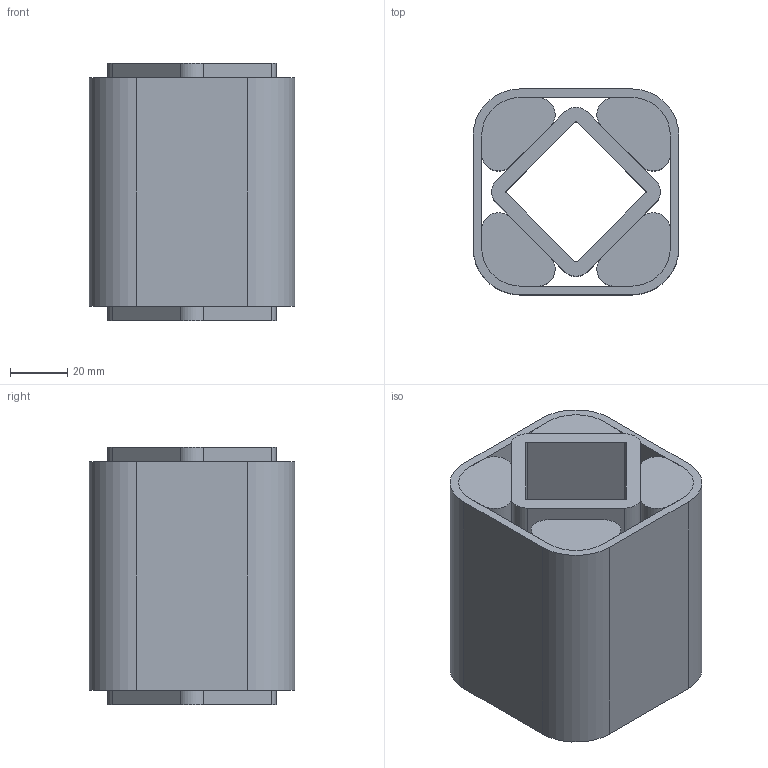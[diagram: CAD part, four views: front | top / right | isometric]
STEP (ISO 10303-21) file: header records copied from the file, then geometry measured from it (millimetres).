
FILE_DESCRIPTION((''),'2;1');
FILE_NAME('D:\ROSTA\Gummifederelemente\3D\DR-S45x80_01021016.stp','2005-02-02T07:00:29',('Administrator'),(''),'Autodesk Inventor 8','Autodesk Inventor 8','');
FILE_SCHEMA(('AUTOMOTIVE_DESIGN { 1 0 10303 214 1 1 1 1 }'));
Length unit declared in the file: millimetre
Products named in the file (4): Baugruppe1; 4.4.3730-001; 4.4.3730-002; 4.4.3730-003
Assembly tree (6 placements, depth 2):
  Baugruppe1
    4.4.3730-001
    4.4.3730-002
    4.4.3730-003  x4
Bounding box: 72 x 72 x 90 mm (x, y, z)
Volume: 275671.8 mm3; surface area: 100606.8 mm2
Topology: 6 solids, 6 shells, 68 faces, 168 edges, 112 vertices
Faces by surface type: plane 40, cylinder 28
Entity records: 1491 total; most frequent: DIRECTION 260, CARTESIAN_POINT 244, ORIENTED_EDGE 228, EDGE_CURVE 114, AXIS2_PLACEMENT_3D 92, VERTEX_POINT 76, VECTOR 76, LINE 76
